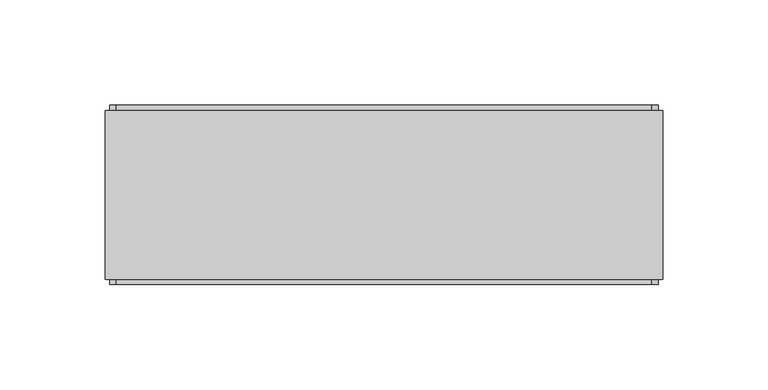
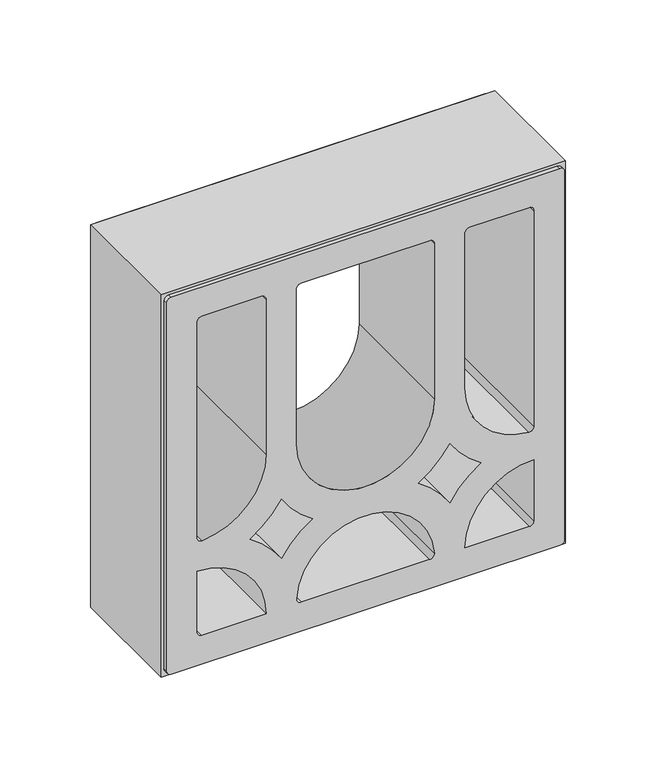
"""IFC4 building model written with IfcOpenShell, lengths in millimetres: proxy geometry, PORTOBELLO - STUDIO CRAFT 2 26X26 (COBOGO) : STUDIO CRAFT 2."""

from ifc_helpers import new_model, si_unit, point, frame, frame_2d, origin, place, context, project, spatial, polyline, circle_curve, trimmed, segment, composite_curve, outline, extrude, source, transform, mapped, element, save


def generic_models_90d806fa(model_context):
    return source(origin(), model_context, "Body", "SweptSolid", [
        extrude(outline(composite_curve([segment(polyline([(259.0, -130.0), (5.0, -130.0)]), True, "CONTINUOUS"), segment(trimmed(circle_curve(frame_2d((5.0, -127.0)), 3.0), [point((5.0, -130.0))], [point((2.0, -127.0))], False, "CARTESIAN"), True, "CONTINUOUS"), segment(polyline([(2.0, -127.0), (2.0, 127.0)]), True, "CONTINUOUS"), segment(trimmed(circle_curve(frame_2d((5.0, 127.0)), 3.0), [point((2.0, 127.0))], [point((5.0, 130.0))], False, "CARTESIAN"), True, "CONTINUOUS"), segment(polyline([(5.0, 130.0), (259.0, 130.0)]), True, "CONTINUOUS"), segment(trimmed(circle_curve(frame_2d((259.0, 127.0)), 3.0), [point((259.0, 130.0))], [point((262.0, 127.0))], False, "CARTESIAN"), True, "CONTINUOUS"), segment(polyline([(262.0, 127.0), (262.0, -127.0)]), True, "CONTINUOUS"), segment(trimmed(circle_curve(frame_2d((259.0, -127.0)), 3.0), [point((262.0, -127.0))], [point((259.0, -130.0))], False, "CARTESIAN"), True, "CONTINUOUS")], self_intersect=False), holes=[composite_curve([segment(polyline([(22.0, -65.0), (22.0, -107.0)]), True, "CONTINUOUS"), segment(trimmed(circle_curve(frame_2d((25.0, -107.0)), 3.0), [point((22.0, -107.0))], [point((25.0, -110.0))], True, "CARTESIAN"), True, "CONTINUOUS"), segment(polyline([(25.0, -110.0), (67.0, -110.0)]), True, "CONTINUOUS"), segment(trimmed(circle_curve(frame_2d((22.0, -110.0)), 45.0), [point((67.0, -110.0))], [point((22.0, -65.0))], True, "CARTESIAN"), True, "CONTINUOUS")], self_intersect=False), composite_curve([segment(polyline([(67.0, 110.0), (25.0, 110.0)]), True, "CONTINUOUS"), segment(trimmed(circle_curve(frame_2d((25.0, 107.0)), 3.0), [point((25.0, 110.0))], [point((22.0, 107.0))], True, "CARTESIAN"), True, "CONTINUOUS"), segment(polyline([(22.0, 107.0), (22.0, 65.0)]), True, "CONTINUOUS"), segment(trimmed(circle_curve(frame_2d((22.0, 110.0)), 45.0), [point((22.0, 65.0))], [point((67.0, 110.0))], True, "CARTESIAN"), True, "CONTINUOUS")], self_intersect=False), composite_curve([segment(polyline([(242.0, 68.0), (242.0, 107.0)]), True, "CONTINUOUS"), segment(trimmed(circle_curve(frame_2d((239.0, 107.0)), 3.0), [point((242.0, 107.0))], [point((239.0, 110.0))], True, "CARTESIAN"), True, "CONTINUOUS"), segment(polyline([(239.0, 110.0), (90.1072799, 110.0)]), True, "CONTINUOUS"), segment(trimmed(circle_curve(frame_2d((90.1072799, 107.0)), 3.0), [point((90.1072799, 110.0))], [point((87.1149427, 106.7857143))], True, "CARTESIAN"), True, "CONTINUOUS"), segment(trimmed(circle_curve(frame_2d((132.0, 110.0)), 45.0), [point((87.1149427, 106.7857143))], [point((132.0, 65.0))], True, "CARTESIAN"), True, "CONTINUOUS"), segment(polyline([(132.0, 65.0), (239.0, 65.0)]), True, "CONTINUOUS"), segment(trimmed(circle_curve(frame_2d((239.0, 68.0)), 3.0), [point((239.0, 65.0))], [point((242.0, 68.0))], True, "CARTESIAN"), True, "CONTINUOUS")], self_intersect=False), composite_curve([segment(polyline([(90.1072799, -110.0), (239.0, -110.0)]), True, "CONTINUOUS"), segment(trimmed(circle_curve(frame_2d((239.0, -107.0)), 3.0), [point((239.0, -110.0))], [point((242.0, -107.0))], True, "CARTESIAN"), True, "CONTINUOUS"), segment(polyline([(242.0, -107.0), (242.0, -68.0)]), True, "CONTINUOUS"), segment(trimmed(circle_curve(frame_2d((239.0, -68.0)), 3.0), [point((242.0, -68.0))], [point((239.0, -65.0))], True, "CARTESIAN"), True, "CONTINUOUS"), segment(polyline([(239.0, -65.0), (132.0, -65.0)]), True, "CONTINUOUS"), segment(trimmed(circle_curve(frame_2d((132.0, -110.0)), 45.0), [point((132.0, -65.0))], [point((87.1149427, -106.7857143))], True, "CARTESIAN"), True, "CONTINUOUS"), segment(trimmed(circle_curve(frame_2d((90.1072799, -107.0)), 3.0), [point((87.1149427, -106.7857143))], [point((90.1072799, -110.0))], True, "CARTESIAN"), True, "CONTINUOUS")], self_intersect=False), composite_curve([segment(trimmed(circle_curve(frame_2d((22.0, 0.0)), 45.0), [point((25.2142857, -44.8850573))], [point((25.2142857, 44.8850573))], True, "CARTESIAN"), True, "CONTINUOUS"), segment(trimmed(circle_curve(frame_2d((25.0, 41.8927201)), 3.0), [point((25.2142857, 44.8850573))], [point((22.0, 41.8927201))], True, "CARTESIAN"), True, "CONTINUOUS"), segment(polyline([(22.0, 41.8927201), (22.0, -41.8927201)]), True, "CONTINUOUS"), segment(trimmed(circle_curve(frame_2d((25.0, -41.8927201)), 3.0), [point((22.0, -41.8927201))], [point((25.2142857, -44.8850573))], True, "CARTESIAN"), True, "CONTINUOUS")], self_intersect=False), composite_curve([segment(polyline([(132.0, -45.0), (239.0, -45.0)]), True, "CONTINUOUS"), segment(trimmed(circle_curve(frame_2d((239.0, -42.0)), 3.0), [point((239.0, -45.0))], [point((242.0, -42.0))], True, "CARTESIAN"), True, "CONTINUOUS"), segment(polyline([(242.0, -42.0), (242.0, 42.0)]), True, "CONTINUOUS"), segment(trimmed(circle_curve(frame_2d((239.0, 42.0)), 3.0), [point((242.0, 42.0))], [point((239.0, 45.0))], True, "CARTESIAN"), True, "CONTINUOUS"), segment(polyline([(239.0, 45.0), (132.0, 45.0)]), True, "CONTINUOUS"), segment(trimmed(circle_curve(frame_2d((132.0, 0.0)), 45.0), [point((132.0, 45.0))], [point((132.0, -45.0))], True, "CARTESIAN"), True, "CONTINUOUS")], self_intersect=False), composite_curve([segment(trimmed(circle_curve(frame_2d((22.0, 0.0)), 65.0), [point((56.6410162, 55.0))], [point((77.0, 34.6410162))], False, "CARTESIAN"), True, "CONTINUOUS"), segment(trimmed(circle_curve(frame_2d((132.0, 0.0)), 65.0), [point((77.0, 34.6410162))], [point((97.3589838, 55.0))], False, "CARTESIAN"), True, "CONTINUOUS"), segment(trimmed(circle_curve(frame_2d((132.0, 110.0)), 65.0), [point((97.3589838, 55.0))], [point((77.0, 75.3589838))], False, "CARTESIAN"), True, "CONTINUOUS"), segment(trimmed(circle_curve(frame_2d((22.0, 110.0)), 65.0), [point((77.0, 75.3589838))], [point((56.6410162, 55.0))], False, "CARTESIAN"), True, "CONTINUOUS")], self_intersect=False), composite_curve([segment(trimmed(circle_curve(frame_2d((22.0, -110.0)), 65.0), [point((56.6410162, -55.0))], [point((77.0, -75.3589838))], False, "CARTESIAN"), True, "CONTINUOUS"), segment(trimmed(circle_curve(frame_2d((132.0, -110.0)), 65.0), [point((77.0, -75.3589838))], [point((97.3589838, -55.0))], False, "CARTESIAN"), True, "CONTINUOUS"), segment(trimmed(circle_curve(frame_2d((132.0, 0.0)), 65.0), [point((97.3589838, -55.0))], [point((77.0, -34.6410162))], False, "CARTESIAN"), True, "CONTINUOUS"), segment(trimmed(circle_curve(frame_2d((22.0, 0.0)), 65.0), [point((77.0, -34.6410162))], [point((56.6410162, -55.0))], False, "CARTESIAN"), True, "CONTINUOUS")], self_intersect=False)]), frame((0.0, -42.5, 0.0), z_axis=(0.0, 1.0, 0.0), x_axis=(0.0, 0.0, 1.0)), (0.0, 0.0, 1.0), 85.0),
        extrude(outline(polyline([(264.0, -132.0), (0.0, -132.0), (0.0, 132.0), (264.0, 132.0), (264.0, -132.0)]), holes=[composite_curve([segment(trimmed(circle_curve(frame_2d((5.0, -127.0)), 3.0), [point((2.0, -127.0))], [point((5.0, -130.0))], True, "CARTESIAN"), True, "CONTINUOUS"), segment(polyline([(5.0, -130.0), (259.0, -130.0)]), True, "CONTINUOUS"), segment(trimmed(circle_curve(frame_2d((259.0, -127.0)), 3.0), [point((259.0, -130.0))], [point((262.0, -127.0))], True, "CARTESIAN"), True, "CONTINUOUS"), segment(polyline([(262.0, -127.0), (262.0, 127.0)]), True, "CONTINUOUS"), segment(trimmed(circle_curve(frame_2d((259.0, 127.0)), 3.0), [point((262.0, 127.0))], [point((259.0, 130.0))], True, "CARTESIAN"), True, "CONTINUOUS"), segment(polyline([(259.0, 130.0), (5.0, 130.0)]), True, "CONTINUOUS"), segment(trimmed(circle_curve(frame_2d((5.0, 127.0)), 3.0), [point((5.0, 130.0))], [point((2.0, 127.0))], True, "CARTESIAN"), True, "CONTINUOUS"), segment(polyline([(2.0, 127.0), (2.0, -127.0)]), True, "CONTINUOUS")], self_intersect=False)]), frame((0.0, -40.0, 0.0), z_axis=(0.0, 1.0, 0.0), x_axis=(0.0, 0.0, 1.0)), (0.0, 0.0, 1.0), 80.0),
    ])


if __name__ == "__main__":
    model = new_model("IFC4")
    model_context = context("Model", 3, world=origin())
    ifc_project = project(units=[si_unit("LENGTHUNIT", "METRE", prefix="MILLI")], contexts=[model_context])
    site = spatial("IfcSite", under=ifc_project)
    building = spatial("IfcBuilding", under=site)
    placement = place(None, origin())
    generic_models_shape = generic_models_90d806fa(model_context)
    element("IfcBuildingElementProxy", 1, Name="PORTOBELLO - STUDIO CRAFT 2 26X26 (COBOGO) : STUDIO CRAFT 2", ObjectType="PORTOBELLO - STUDIO CRAFT 2 26X26 (COBOGO) : STUDIO CRAFT 2", at=placement, inside=building, context=model_context, shape_type="MappedRepresentation", body=[
        mapped(generic_models_shape, transform((0.0, 0.0, 0.0), x_axis=(1.0, 0.0, 0.0), y_axis=(0.0, 1.0, 0.0), z_axis=(0.0, 0.0, 1.0))),
    ])
    save(model, "model.ifc")
